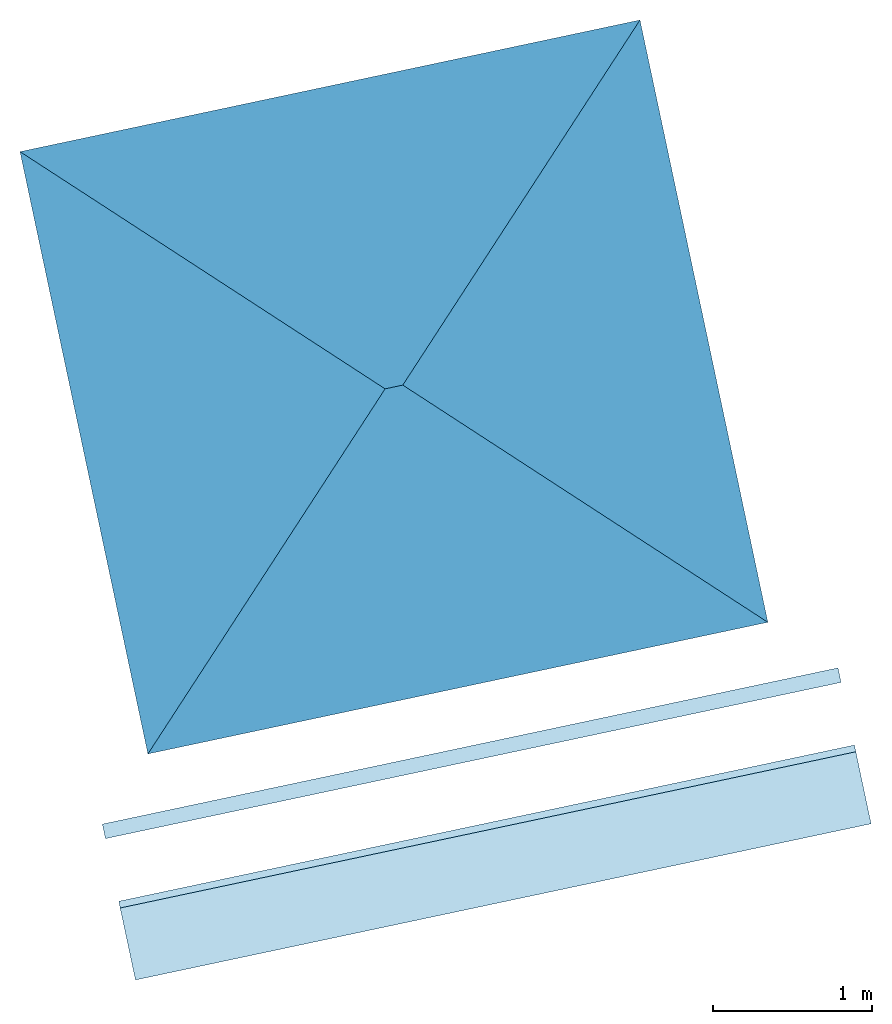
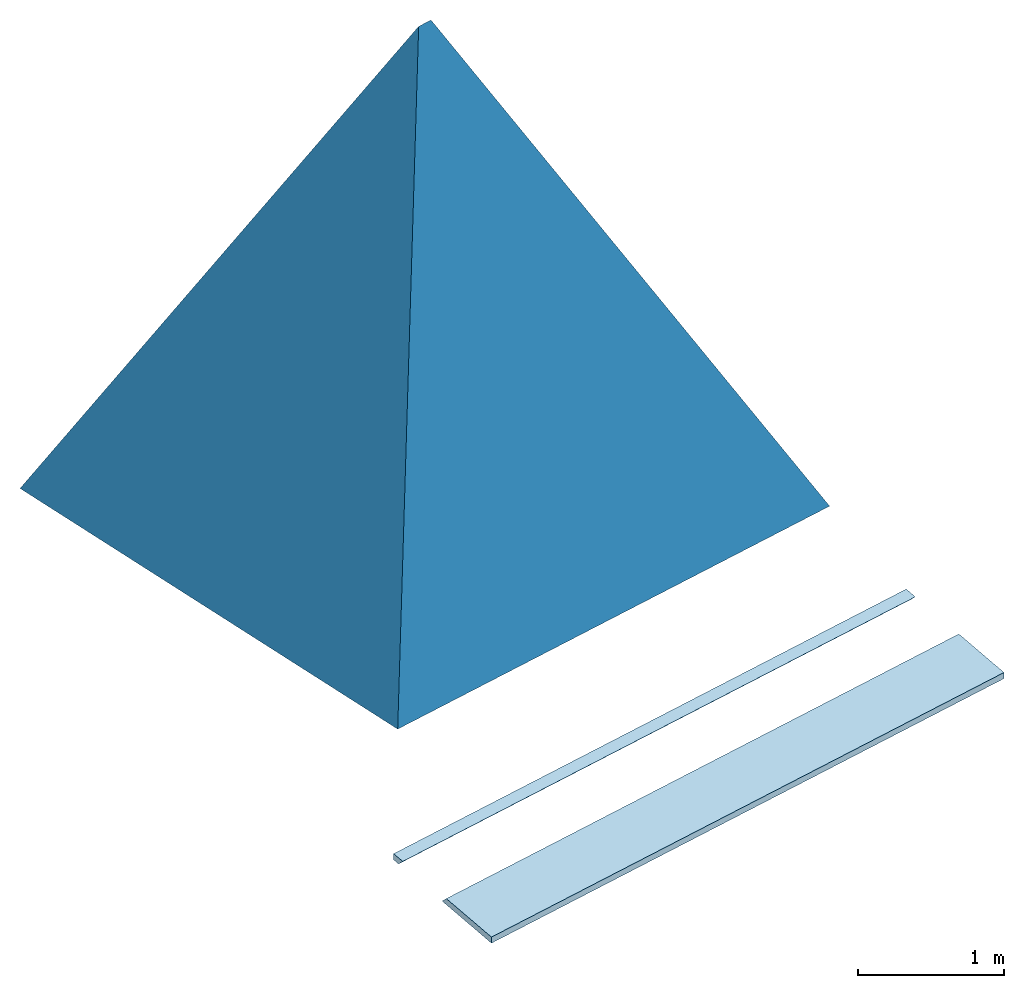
# One storey: 2 roofs.
"""IFC2X3 building model written with IfcOpenShell, lengths in centimetres."""

from ifc_helpers import new_model, entity, si_unit, converted_unit, derived_unit, direction, frame, origin, place, context, subcontext, project, spatial, faceted_brep, material, layer, layer_set, element, save


model = new_model("IFC2X3")

# Units and contexts
model_context = context("Model", 3, precision=0.001, world=origin(), true_north=direction((6.12303176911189e-17, 1.0)))
body_context = subcontext(model_context, "Body", "Model", "MODEL_VIEW")
ifc_project = project(units=[si_unit("LENGTHUNIT", "METRE", prefix="CENTI"), si_unit("AREAUNIT", "SQUARE_METRE"), si_unit("VOLUMEUNIT", "CUBIC_METRE"), converted_unit("PLANEANGLEUNIT", "DEGREE", entity("IfcRatioMeasure", 0.0174532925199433), si_unit("PLANEANGLEUNIT", "RADIAN"), dimensions=[0, 0, 0, 0, 0, 0, 0]), si_unit("MASSUNIT", "GRAM", prefix="KILO"), derived_unit("MASSDENSITYUNIT", [(si_unit("MASSUNIT", "GRAM", prefix="KILO"), 1), (si_unit("LENGTHUNIT", "METRE"), -3)]), derived_unit("IONCONCENTRATIONUNIT", [(si_unit("MASSUNIT", "GRAM", prefix="KILO"), 1), (si_unit("LENGTHUNIT", "METRE"), -3)]), derived_unit("MOMENTOFINERTIAUNIT", [(si_unit("LENGTHUNIT", "METRE"), 4)]), si_unit("TIMEUNIT", "SECOND"), si_unit("FREQUENCYUNIT", "HERTZ"), si_unit("THERMODYNAMICTEMPERATUREUNIT", "DEGREE_CELSIUS"), derived_unit("THERMALTRANSMITTANCEUNIT", [(si_unit("MASSUNIT", "GRAM", prefix="KILO"), 1), (si_unit("THERMODYNAMICTEMPERATUREUNIT", "KELVIN"), -1), (si_unit("TIMEUNIT", "SECOND"), -3)]), derived_unit("THERMALCONDUCTANCEUNIT", [(si_unit("MASSUNIT", "GRAM", prefix="KILO"), 1), (si_unit("THERMODYNAMICTEMPERATUREUNIT", "KELVIN"), -1), (si_unit("TIMEUNIT", "SECOND"), -3), (si_unit("LENGTHUNIT", "METRE"), 1)]), derived_unit("VOLUMETRICFLOWRATEUNIT", [(si_unit("LENGTHUNIT", "METRE"), 3), (si_unit("TIMEUNIT", "SECOND"), -1)]), derived_unit("MASSFLOWRATEUNIT", [(si_unit("MASSUNIT", "GRAM", prefix="KILO"), 1), (si_unit("TIMEUNIT", "SECOND"), -1)]), derived_unit("ROTATIONALFREQUENCYUNIT", [(si_unit("TIMEUNIT", "SECOND"), -1)]), si_unit("ELECTRICCURRENTUNIT", "AMPERE"), si_unit("ELECTRICVOLTAGEUNIT", "VOLT"), si_unit("POWERUNIT", "WATT"), si_unit("FORCEUNIT", "NEWTON", prefix="KILO"), si_unit("ILLUMINANCEUNIT", "LUX"), si_unit("LUMINOUSFLUXUNIT", "LUMEN"), si_unit("LUMINOUSINTENSITYUNIT", "CANDELA"), derived_unit("USERDEFINED", [(si_unit("MASSUNIT", "GRAM", prefix="KILO"), -1), (si_unit("LENGTHUNIT", "METRE"), -2), (si_unit("TIMEUNIT", "SECOND"), 3), (si_unit("LUMINOUSFLUXUNIT", "LUMEN"), 1)]), derived_unit("USERDEFINED", [(si_unit("MASSUNIT", "GRAM", prefix="KILO"), 1), (si_unit("TIMEUNIT", "SECOND"), -3), (si_unit("LENGTHUNIT", "METRE"), 3), (si_unit("ELECTRICCURRENTUNIT", "AMPERE"), -2)]), derived_unit("SOUNDPOWERUNIT", [(si_unit("MASSUNIT", "GRAM", prefix="KILO"), 1), (si_unit("TIMEUNIT", "SECOND"), -3), (si_unit("LENGTHUNIT", "METRE"), 2)]), derived_unit("SOUNDPRESSUREUNIT", [(si_unit("MASSUNIT", "GRAM", prefix="KILO"), 1), (si_unit("LENGTHUNIT", "METRE"), -1), (si_unit("TIMEUNIT", "SECOND"), -2)]), derived_unit("LINEARVELOCITYUNIT", [(si_unit("LENGTHUNIT", "METRE"), 1), (si_unit("TIMEUNIT", "SECOND"), -1)]), si_unit("PRESSUREUNIT", "PASCAL"), derived_unit("USERDEFINED", [(si_unit("MASSUNIT", "GRAM", prefix="KILO"), 1), (si_unit("LENGTHUNIT", "METRE"), -2), (si_unit("TIMEUNIT", "SECOND"), -2)]), derived_unit("LINEARFORCEUNIT", [(si_unit("MASSUNIT", "GRAM", prefix="KILO"), 1), (si_unit("TIMEUNIT", "SECOND"), -2)]), derived_unit("PLANARFORCEUNIT", [(si_unit("MASSUNIT", "GRAM", prefix="KILO"), 1), (si_unit("LENGTHUNIT", "METRE"), -1), (si_unit("TIMEUNIT", "SECOND"), -2)]), derived_unit("SPECIFICHEATCAPACITYUNIT", [(si_unit("THERMODYNAMICTEMPERATUREUNIT", "KELVIN"), -1), (si_unit("LENGTHUNIT", "METRE"), 2), (si_unit("TIMEUNIT", "SECOND"), -2)]), derived_unit("HEATINGVALUEUNIT", [(si_unit("LENGTHUNIT", "METRE"), 2), (si_unit("TIMEUNIT", "SECOND"), -2)]), derived_unit("VAPORPERMEABILITYUNIT", [(si_unit("LENGTHUNIT", "METRE"), -1), (si_unit("TIMEUNIT", "SECOND"), 1)]), derived_unit("DYNAMICVISCOSITYUNIT", [(si_unit("MASSUNIT", "GRAM", prefix="KILO"), 1), (si_unit("TIMEUNIT", "SECOND"), -1), (si_unit("LENGTHUNIT", "METRE"), -1)]), derived_unit("THERMALEXPANSIONCOEFFICIENTUNIT", [(si_unit("THERMODYNAMICTEMPERATUREUNIT", "KELVIN"), -1)]), derived_unit("MODULUSOFELASTICITYUNIT", [(si_unit("MASSUNIT", "GRAM", prefix="KILO"), 1), (si_unit("LENGTHUNIT", "METRE"), -1), (si_unit("TIMEUNIT", "SECOND"), -2)]), derived_unit("ISOTHERMALMOISTURECAPACITYUNIT", [(si_unit("LENGTHUNIT", "METRE"), 3), (si_unit("MASSUNIT", "GRAM", prefix="KILO"), -1)]), derived_unit("MOISTUREDIFFUSIVITYUNIT", [(si_unit("TIMEUNIT", "SECOND"), -1), (si_unit("LENGTHUNIT", "METRE"), 2)])], contexts=[model_context])

# Site, building, storey
site_placement = place(None, frame((14083.8920177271, -6853.25409548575, 6900.0), z_axis=(0.0, 0.0, 1.0), x_axis=(0.978188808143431, 0.207717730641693, 0.0)))
site = spatial("IfcSite", under=ifc_project, at=site_placement, Name="Surface", CompositionType="ELEMENT")
building_placement = place(site_placement, origin())
building = spatial("IfcBuilding", under=site, at=building_placement, CompositionType="ELEMENT")
storey_placement = place(building_placement, frame((0.0, 0.0, 544.0)))
storey = spatial("IfcBuildingStorey", under=building, at=storey_placement, Name="_R+2", CompositionType="ELEMENT", Elevation=544.000000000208)

# Roofs
ifc_material = material(Name="__ TOIT_ardoises______________________TEST")
ifc_layer_1 = layer(ifc_material, 30.0)
ifc_layer_set_1 = layer_set([ifc_layer_1], Name="Toit de base:Toiture ardoise (ep30cm)")
roof_1_placement = place(storey_placement, frame((-7531.69917914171, 15321.2653131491, 48.4351609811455)))
element("IfcRoof", 1, at=roof_1_placement, inside=storey, material=ifc_layer_set_1, Name="Toit de base:Toiture ardoise (ep30cm)", ObjectType="Toit de base:Toiture ardoise (ep30cm)", ShapeType="NOTDEFINED", context=body_context, shape_type="Brep", body=[
    faceted_brep([(204.494035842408, 193.152031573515, 327.585191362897), (364.268009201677, 352.926004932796, 0.0), (364.268009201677, 33.3780582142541, 0.0), (33.3780582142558, 352.926004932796, 0.0), (193.152031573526, 193.152031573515, 327.585191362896), (33.3780582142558, 33.3780582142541, 0.0), (397.646067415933, 386.304063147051, 0.0), (204.494035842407, 193.152031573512, 396.020352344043), (397.646067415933, 0.0, 0.0), (0.0, 386.304063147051, 0.0), (0.0, 0.0, 0.0), (193.152031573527, 193.152031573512, 396.020352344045)], [[[0, 1, 2]], [[3, 4, 5]], [[1, 0, 4, 3]], [[5, 4, 0, 2]], [[6, 7, 8]], [[9, 10, 11]], [[6, 9, 11, 7]], [[10, 8, 7, 11]], [[1, 3, 5, 2], [6, 8, 10, 9]]], outer=[[True], [True], [True], [True], [True], [True], [True], [True], [False, True]]),
])
ifc_layer_2 = layer(ifc_material, 5.0)
ifc_layer_set_2 = layer_set([ifc_layer_2], Name="Toit de base:Ardoise 5")
roof_2_placement = place(storey_placement, frame((-7568.79714756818, 15184.1673447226, -41.6326980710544)))
element("IfcRoof", 2, at=roof_2_placement, inside=storey, material=ifc_layer_set_2, Name="Toit de base:Ardoise 5", ObjectType="Toit de base:Ardoise 5", ShapeType="NOTDEFINED", context=body_context, shape_type="Brep", body=[
    faceted_brep([(0.0, 100.0, 17.6326980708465), (471.84200426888, 100.0, 17.6326980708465), (471.84200426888, 94.9824339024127, 16.7479657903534), (0.0, 94.9824339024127, 16.7479657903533), (0.0, 100.0, 22.7098311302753), (471.84200426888, 100.0, 22.7098311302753), (0.0, 90.6663439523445, 21.0640557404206), (471.84200426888, 90.6663439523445, 21.0640557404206)], [[[0, 1, 2, 3]], [[1, 0, 4, 5]], [[4, 0, 3, 6]], [[3, 2, 7, 6]], [[1, 5, 7, 2]], [[5, 4, 6, 7]]]),
    faceted_brep([(0.0, 0.0, 5.07713305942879), (471.84200426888, 0.0, 5.07713305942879), (471.84200426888, 46.1838976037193, 13.2206002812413), (0.0, 46.1838976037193, 13.2206002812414), (0.0, 0.0, 0.0), (471.84200426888, 0.0, 0.0), (471.84200426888, 50.4999875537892, 8.90451033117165), (0.0, 50.4999875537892, 8.90451033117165)], [[[0, 1, 2, 3]], [[1, 0, 4, 5]], [[1, 5, 6, 2]], [[6, 7, 3, 2]], [[4, 0, 3, 7]], [[5, 4, 7, 6]]]),
])

save(model, "model.ifc")
